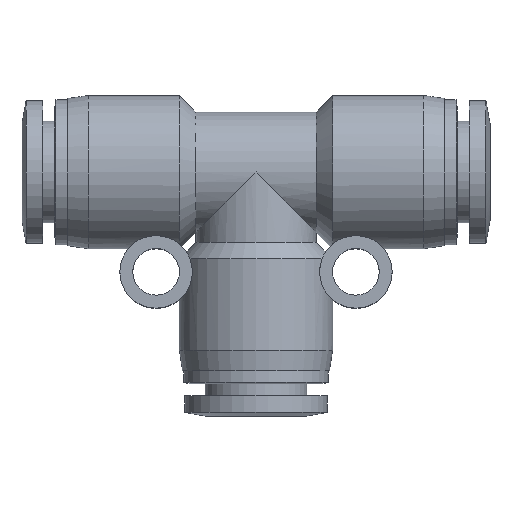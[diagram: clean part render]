
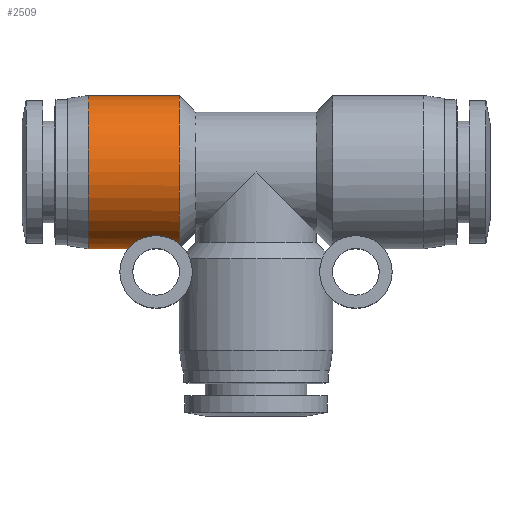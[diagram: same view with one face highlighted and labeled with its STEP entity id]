
A CAD part, top view. The second image highlights one B-rep face of the part: STEP entity #2509.
In plain terms, the highlighted cylindrical face has radius 7.4 mm (diameter 14.8 mm), a partial arc.
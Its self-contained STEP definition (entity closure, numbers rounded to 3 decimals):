
#65 = CARTESIAN_POINT ( 'NONE',  ( -10.877, -6.372, 3.763 ) ) ;
#101 = CARTESIAN_POINT ( 'NONE',  ( -7.4, -6.969, 2.488 ) ) ;
#120 = CARTESIAN_POINT ( 'NONE',  ( -10.678, -6.304, 3.876 ) ) ;
#136 = CARTESIAN_POINT ( 'NONE',  ( -12.015, -7.07, 2.185 ) ) ;
#259 = DIRECTION ( 'NONE',  ( 1., 0., 0. ) ) ;
#354 = CARTESIAN_POINT ( 'NONE',  ( -7.881, -6.629, 3.288 ) ) ;
#410 = CARTESIAN_POINT ( 'NONE',  ( -7.752, -6.708, 3.126 ) ) ;
#414 = EDGE_CURVE ( 'NONE', #1147, #2542, #2328, .T. ) ;
#424 = CARTESIAN_POINT ( 'NONE',  ( -7.472, -6.909, 2.657 ) ) ;
#443 = DIRECTION ( 'NONE',  ( 1., 0., 0. ) ) ;
#468 = DIRECTION ( 'NONE',  ( 1., 0., 0. ) ) ;
#504 = CARTESIAN_POINT ( 'NONE',  ( -12.331, -7.4, 0. ) ) ;
#566 = CARTESIAN_POINT ( 'NONE',  ( -7.4, 7.4, 0. ) ) ;
#618 = CARTESIAN_POINT ( 'NONE',  ( -7.913, -6.611, 3.325 ) ) ;
#642 = CARTESIAN_POINT ( 'NONE',  ( -10.871, -6.37, 3.767 ) ) ;
#660 = CARTESIAN_POINT ( 'NONE',  ( -7.683, -6.754, 3.024 ) ) ;
#677 = VERTEX_POINT ( 'NONE', #566 ) ;
#678 = CARTESIAN_POINT ( 'NONE',  ( -8.457, -6.358, 3.786 ) ) ;
#691 = CARTESIAN_POINT ( 'NONE',  ( -10.81, -6.348, 3.803 ) ) ;
#790 = AXIS2_PLACEMENT_3D ( 'NONE', #2650, #468, #1549 ) ;
#803 = CARTESIAN_POINT ( 'NONE',  ( -12.23, -7.269, 1.528 ) ) ;
#822 = CYLINDRICAL_SURFACE ( 'NONE', #1447, 7.4 ) ;
#860 = CARTESIAN_POINT ( 'NONE',  ( -12.025, -7.079, 2.156 ) ) ;
#880 = CARTESIAN_POINT ( 'NONE',  ( -10.846, -6.36, 3.782 ) ) ;
#918 = CARTESIAN_POINT ( 'NONE',  ( -7.552, -6.847, 2.812 ) ) ;
#938 = CARTESIAN_POINT ( 'NONE',  ( -9.749, -6.15, 4.116 ) ) ;
#950 = CARTESIAN_POINT ( 'NONE',  ( -16.2, -7.4, 0. ) ) ;
#1000 = CARTESIAN_POINT ( 'NONE',  ( -7.4, 0., 0. ) ) ;
#1144 = CARTESIAN_POINT ( 'NONE',  ( -9.478, -6.153, 4.111 ) ) ;
#1147 = VERTEX_POINT ( 'NONE', #1794 ) ;
#1159 = VECTOR ( 'NONE', #3018, 1000. ) ;
#1167 = CARTESIAN_POINT ( 'NONE',  ( -11.856, -6.932, 2.592 ) ) ;
#1199 = CARTESIAN_POINT ( 'NONE',  ( -8.178, -6.471, 3.592 ) ) ;
#1220 = CARTESIAN_POINT ( 'NONE',  ( -8.567, -6.321, 3.847 ) ) ;
#1371 = LINE ( 'NONE', #2999, #1159 ) ;
#1387 = AXIS2_PLACEMENT_3D ( 'NONE', #1000, #443, #2079 ) ;
#1399 = CARTESIAN_POINT ( 'NONE',  ( -12.331, -7.4, 0. ) ) ;
#1408 = DIRECTION ( 'NONE',  ( 1., 0., 0. ) ) ;
#1434 = CARTESIAN_POINT ( 'NONE',  ( -10.208, -6.19, 4.056 ) ) ;
#1447 = AXIS2_PLACEMENT_3D ( 'NONE', #2446, #259, #2991 ) ;
#1470 = CARTESIAN_POINT ( 'NONE',  ( -8.746, -6.269, 3.932 ) ) ;
#1504 = CARTESIAN_POINT ( 'NONE',  ( -11.65, -6.774, 2.982 ) ) ;
#1549 = DIRECTION ( 'NONE',  ( 0., 1., 0. ) ) ;
#1605 = CIRCLE ( 'NONE', #1387, 7.4 ) ;
#1677 = CARTESIAN_POINT ( 'NONE',  ( -11.8, -7.4, 0. ) ) ;
#1702 = CARTESIAN_POINT ( 'NONE',  ( -10.468, -6.245, 3.969 ) ) ;
#1760 = CARTESIAN_POINT ( 'NONE',  ( -8.932, -6.22, 4.01 ) ) ;
#1774 = CARTESIAN_POINT ( 'NONE',  ( -8.738, -6.271, 3.928 ) ) ;
#1794 = CARTESIAN_POINT ( 'NONE',  ( -16.2, 7.4, 0. ) ) ;
#1935 = LINE ( 'NONE', #1677, #2467 ) ;
#1945 = CARTESIAN_POINT ( 'NONE',  ( -12.021, -7.075, 2.167 ) ) ;
#1964 = CARTESIAN_POINT ( 'NONE',  ( -10.029, -6.166, 4.092 ) ) ;
#2017 = CARTESIAN_POINT ( 'NONE',  ( -10.739, -6.323, 3.844 ) ) ;
#2079 = DIRECTION ( 'NONE',  ( 0., 1., 0. ) ) ;
#2134 = FACE_OUTER_BOUND ( 'NONE', #2290, .T. ) ;
#2230 = CARTESIAN_POINT ( 'NONE',  ( -8.69, -6.284, 3.907 ) ) ;
#2250 = CARTESIAN_POINT ( 'NONE',  ( -11.972, -7.031, 2.308 ) ) ;
#2271 = CARTESIAN_POINT ( 'NONE',  ( -10.553, -6.267, 3.935 ) ) ;
#2288 = CARTESIAN_POINT ( 'NONE',  ( -11.737, -6.838, 2.835 ) ) ;
#2290 = EDGE_LOOP ( 'NONE', ( #3377, #2730, #2773, #2461, #2844 ) ) ;
#2307 = CARTESIAN_POINT ( 'NONE',  ( -8.048, -6.535, 3.475 ) ) ;
#2317 = EDGE_CURVE ( 'NONE', #677, #2428, #1605, .T. ) ;
#2328 = CIRCLE ( 'NONE', #790, 7.4 ) ;
#2405 = VERTEX_POINT ( 'NONE', #504 ) ;
#2428 = VERTEX_POINT ( 'NONE', #2892 ) ;
#2446 = CARTESIAN_POINT ( 'NONE',  ( -11.8, 0., 0. ) ) ;
#2461 = ORIENTED_EDGE ( 'NONE', *, *, #2317, .F. ) ;
#2467 = VECTOR ( 'NONE', #1408, 1000. ) ;
#2486 = CARTESIAN_POINT ( 'NONE',  ( -12.331, -7.4, 0.806 ) ) ;
#2509 = ADVANCED_FACE ( 'NONE', ( #2134 ), #822, .T. ) ;
#2524 = EDGE_CURVE ( 'NONE', #2405, #2428, #2603, .T. ) ;
#2539 = CARTESIAN_POINT ( 'NONE',  ( -11.363, -6.588, 3.384 ) ) ;
#2542 = VERTEX_POINT ( 'NONE', #950 ) ;
#2555 = CARTESIAN_POINT ( 'NONE',  ( -11.912, -6.978, 2.465 ) ) ;
#2574 = CARTESIAN_POINT ( 'NONE',  ( -9.387, -6.159, 4.103 ) ) ;
#2603 = B_SPLINE_CURVE_WITH_KNOTS ( 'NONE', 3,
 ( #1399, #2486, #803, #2973, #860, #1945, #136, #3106, #2250, #2555, #1167, #2288, #1504, #2539, #3359, #65, #642, #3378, #880, #691, #2017, #120, #2271, #1702, #1434, #1964, #938, #2790, #1144, #2574, #3071, #1760, #1470, #1774, #2857, #2230, #3323, #1220, #678, #3342, #1199, #2307, #3051, #618, #3394, #354, #2845, #410, #660, #918, #424, #101 ),
 .UNSPECIFIED., .F., .F.,
 ( 4, 2, 2, 1, 1, 1, 1, 2, 2, 2, 2, 1, 1, 1, 2, 2, 2, 2, 2, 2, 2, 1, 1, 2, 2, 2, 2, 1, 1, 1, 2, 4 ),
 ( 0.5, 0.625, 0.626, 0.627, 0.629, 0.633, 0.641, 0.656, 0.687, 0.75, 0.751, 0.752, 0.754, 0.758, 0.766, 0.781, 0.812, 0.828, 0.844, 0.875, 0.877, 0.879, 0.883, 0.891, 0.906, 0.937, 0.939, 0.941, 0.945, 0.953, 0.969, 1. ),
 .UNSPECIFIED. ) ;
#2650 = CARTESIAN_POINT ( 'NONE',  ( -16.2, 0., 0. ) ) ;
#2730 = ORIENTED_EDGE ( 'NONE', *, *, #3141, .T. ) ;
#2773 = ORIENTED_EDGE ( 'NONE', *, *, #2524, .T. ) ;
#2790 = CARTESIAN_POINT ( 'NONE',  ( -9.66, -6.149, 4.118 ) ) ;
#2844 = ORIENTED_EDGE ( 'NONE', *, *, #3120, .F. ) ;
#2845 = CARTESIAN_POINT ( 'NONE',  ( -7.837, -6.655, 3.235 ) ) ;
#2857 = CARTESIAN_POINT ( 'NONE',  ( -8.719, -6.276, 3.92 ) ) ;
#2892 = CARTESIAN_POINT ( 'NONE',  ( -7.4, -6.969, 2.488 ) ) ;
#2973 = CARTESIAN_POINT ( 'NONE',  ( -12.027, -7.081, 2.148 ) ) ;
#2991 = DIRECTION ( 'NONE',  ( 0., 1., 0. ) ) ;
#2999 = CARTESIAN_POINT ( 'NONE',  ( -11.8, 7.4, 0. ) ) ;
#3018 = DIRECTION ( 'NONE',  ( 1., 0., 0. ) ) ;
#3051 = CARTESIAN_POINT ( 'NONE',  ( -7.919, -6.608, 3.331 ) ) ;
#3071 = CARTESIAN_POINT ( 'NONE',  ( -9.114, -6.187, 4.06 ) ) ;
#3106 = CARTESIAN_POINT ( 'NONE',  ( -12.001, -7.057, 2.226 ) ) ;
#3120 = EDGE_CURVE ( 'NONE', #1147, #677, #1371, .T. ) ;
#3141 = EDGE_CURVE ( 'NONE', #2542, #2405, #1935, .T. ) ;
#3323 = CARTESIAN_POINT ( 'NONE',  ( -8.623, -6.304, 3.876 ) ) ;
#3342 = CARTESIAN_POINT ( 'NONE',  ( -8.386, -6.385, 3.741 ) ) ;
#3359 = CARTESIAN_POINT ( 'NONE',  ( -11.138, -6.47, 3.596 ) ) ;
#3377 = ORIENTED_EDGE ( 'NONE', *, *, #414, .T. ) ;
#3378 = CARTESIAN_POINT ( 'NONE',  ( -10.861, -6.366, 3.773 ) ) ;
#3394 = CARTESIAN_POINT ( 'NONE',  ( -7.9, -6.618, 3.31 ) ) ;
